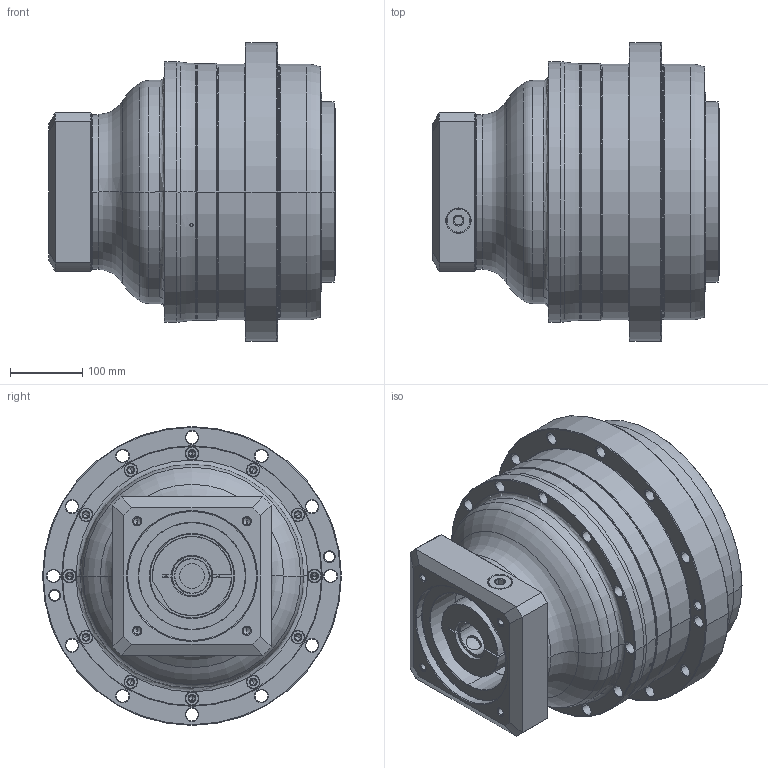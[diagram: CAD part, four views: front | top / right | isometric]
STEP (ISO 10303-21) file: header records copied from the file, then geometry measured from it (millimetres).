
FILE_DESCRIPTION((''),'2;1');
FILE_NAME('AH355_2ST_48-P0409B50101_ASM','2016-08-03T',('d01943'),(''),'PRO/ENGINEER BY PARAMETRIC TECHNOLOGY CORPORATION, 2008410','PRO/ENGINEER BY PARAMETRIC TECHNOLOGY CORPORATION, 2008410','');
FILE_SCHEMA(('CONFIG_CONTROL_DESIGN'));
Length unit declared in the file: millimetre
Products named in the file (8): P0276100003; P0357100003; P1339100301; P0409B50101; P0503B00016; P0962103001; 21711426021; AH355_2ST_48-P0409B50101_ASM
Assembly tree (7 placements, depth 2):
  AH355_2ST_48-P0409B50101_ASM
    P0276100003
    P0357100003
    P1339100301
    P0409B50101
    P0503B00016
    P0962103001
    21711426021
Bounding box: 397.5 x 415 x 415 mm (x, y, z)
Volume: 25792072.3 mm3; surface area: 1362365.9 mm2
Topology: 8 solids, 8 shells, 825 faces, 1877 edges, 1090 vertices
Faces by surface type: cylinder 306, cone 272, torus 114, plane 107, bspline 26
Entity records: 28178 total; most frequent: CARTESIAN_POINT 9083, DIRECTION 4371, ORIENTED_EDGE 3658, AXIS2_PLACEMENT_3D 1857, EDGE_CURVE 1829, VERTEX_POINT 1090, CIRCLE 1043, EDGE_LOOP 995
